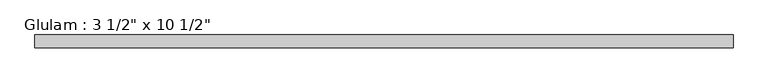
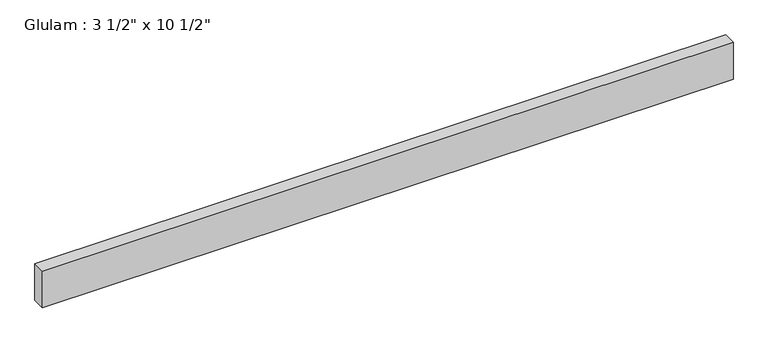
"""IFC4 building model written with IfcOpenShell, lengths in millimetres: beam geometry."""

from ifc_helpers import new_model, si_unit, frame, origin, place, context, project, spatial, polyline, outline, extrude, source, transform, mapped, element, save


def beam_2c6c7f6a(model_context):
    return source(origin(), model_context, "Body", "SweptSolid", [
        extrude(outline(polyline([(2318.6274034, 44.45), (2318.6274034, -44.45), (-2425.0089537, -44.45), (-2425.0089537, 44.45), (2318.6274034, 44.45)])), frame((0.0, 0.0, -133.35), z_axis=(0.0, 0.0, 1.0), x_axis=(1.0, 0.0, 0.0)), (0.0, 0.0, 1.0), 266.7),
    ])


if __name__ == "__main__":
    model = new_model("IFC4")
    model_context = context("Model", 3, world=origin())
    ifc_project = project(units=[si_unit("LENGTHUNIT", "METRE", prefix="MILLI")], contexts=[model_context])
    site = spatial("IfcSite", under=ifc_project)
    building = spatial("IfcBuilding", under=site)
    placement = place(None, origin())
    beam_shape = beam_2c6c7f6a(model_context)
    element("IfcBeam", 1, ObjectType="Glulam : 3 1/2\" x 10 1/2\"", at=placement, inside=building, context=model_context, shape_type="MappedRepresentation", body=[
        mapped(beam_shape, transform((0.0, 0.0, 0.0), x_axis=(1.0, 0.0, 0.0), y_axis=(0.0, 1.0, 0.0), z_axis=(0.0, 0.0, 1.0))),
    ])
    save(model, "model.ifc")
